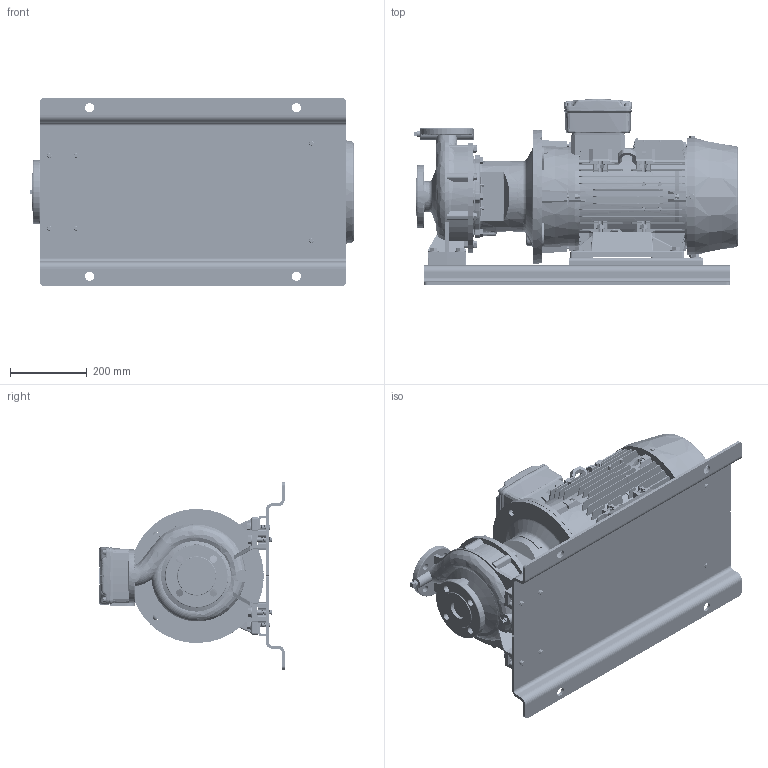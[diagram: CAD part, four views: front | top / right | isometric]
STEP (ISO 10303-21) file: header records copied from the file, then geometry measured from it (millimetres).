
FILE_DESCRIPTION (( 'STEP AP214' ), '1' );
FILE_NAME ('GSD2 32-200_11.0 & 15.0_(160ML)_W21_BP.STEP', '2024-03-20T02:08:13', ( '' ), ( '' ), 'SwSTEP 2.0', 'SolidWorks 2019', '' );
FILE_SCHEMA (( 'AUTOMOTIVE_DESIGN' ));
Length unit declared in the file: millimetre
Products named in the file (19): Parametric bolt and washer_SFT-A309B; Parametric bolt and washer_SFT-A301B; 210_254 x 20 - 271472113; N5S3 GSDA-532 F1-1832923-00; CGS11-5301_2_3_4_5_CGS11-5301; Parametric bolt_SFT-A309B; Parametric Flat Washer_M12; Parametric bolt_SFT-A301B; GSD2  32-200_11.0 & 15.0_(160ML)_W21_BP; 32-200-160M_L; 160M_L_ALIE3_W21T_B35
Assembly tree (37 placements, depth 3):
  GSD2  32-200_11.0 & 15.0_(160ML)_W21_BP
    32-200-160M_L
    N5S3 GSDA-532 F1-1832923-00
    CGS11-5301_2_3_4_5_CGS11-5301  x2
    210_254 x 20 - 271472113  x2
    Parametric bolt and washer_SFT-A309B
      Parametric bolt_SFT-A309B
      Parametric Flat Washer_M12
    Parametric bolt and washer_SFT-A309B
      Parametric bolt_SFT-A309B
      Parametric Flat Washer_M12
    Parametric bolt and washer_SFT-A309B
      Parametric bolt_SFT-A309B
      Parametric Flat Washer_M12
    Parametric bolt and washer_SFT-A309B
      Parametric bolt_SFT-A309B
      Parametric Flat Washer_M12
    Parametric bolt and washer_SFT-A301B
      Parametric bolt_SFT-A301B
      Parametric Flat Washer_M12
    Parametric bolt and washer_SFT-A301B
      Parametric bolt_SFT-A301B
      Parametric Flat Washer_M12
    Parametric bolt and washer_SFT-A301B
      Parametric bolt_SFT-A301B
      Parametric Flat Washer_M12
    Parametric bolt and washer_SFT-A301B
      Parametric bolt_SFT-A301B
      Parametric Flat Washer_M12
    Parametric bolt and washer_SFT-A301B
      Parametric bolt_SFT-A301B
      Parametric Flat Washer_M12
    Parametric bolt and washer_SFT-A301B
      Parametric bolt_SFT-A301B
      Parametric Flat Washer_M12
    160M_L_ALIE3_W21T_B35
Bounding box: 845.95 x 484.53 x 490 mm (x, y, z)
Volume: 46433731 mm3; surface area: 3742327 mm2
Topology: 71 solids, 77 shells, 6445 faces, 16785 edges, 10927 vertices
Faces by surface type: plane 3864, cylinder 1304, cone 575, bspline 433, torus 253, sphere 16
Entity records: 282801 total; most frequent: CARTESIAN_POINT 78866, ORIENTED_EDGE 30782, DIRECTION 26252, EDGE_CURVE 15391, VERTEX_POINT 10031, VECTOR 9792, LINE 9792, AXIS2_PLACEMENT_3D 8230
